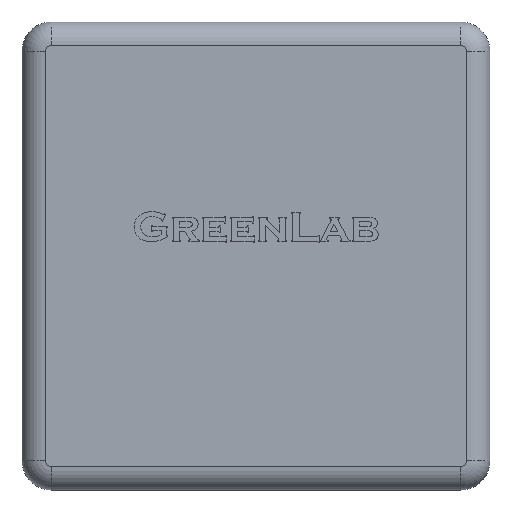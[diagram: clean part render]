
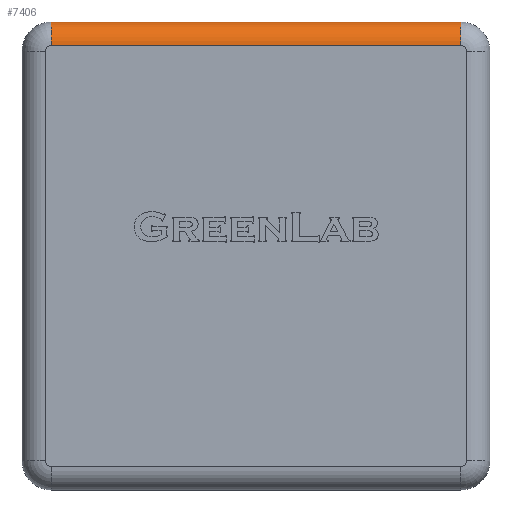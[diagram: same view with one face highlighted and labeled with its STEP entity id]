
A CAD part, top view. The second image highlights one B-rep face of the part: STEP entity #7406.
In plain terms, the highlighted cylindrical face has radius 2 mm (diameter 4 mm), a partial arc.
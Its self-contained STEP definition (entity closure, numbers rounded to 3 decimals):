
#727 = DIRECTION ( 'NONE',  ( -1., 0., 0. ) ) ;
#989 = EDGE_LOOP ( 'NONE', ( #8157, #3811, #7970, #6389 ) ) ;
#1475 = CARTESIAN_POINT ( 'NONE',  ( 15., 15.5, 3. ) ) ;
#1615 = CARTESIAN_POINT ( 'NONE',  ( 0., 15.5, 3. ) ) ;
#1779 = CARTESIAN_POINT ( 'NONE',  ( 17.5, 17.5, 1. ) ) ;
#1863 = DIRECTION ( 'NONE',  ( 0., -1., 0. ) ) ;
#2230 = VERTEX_POINT ( 'NONE', #1475 ) ;
#2774 = CYLINDRICAL_SURFACE ( 'NONE', #5541, 2. ) ;
#3087 = EDGE_CURVE ( 'NONE', #5090, #4146, #3863, .T. ) ;
#3186 = LINE ( 'NONE', #1615, #5279 ) ;
#3333 = CARTESIAN_POINT ( 'NONE',  ( 0., 15.5, 1. ) ) ;
#3713 = AXIS2_PLACEMENT_3D ( 'NONE', #4042, #9550, #6531 ) ;
#3811 = ORIENTED_EDGE ( 'NONE', *, *, #9667, .F. ) ;
#3863 = CIRCLE ( 'NONE', #3713, 2. ) ;
#4042 = CARTESIAN_POINT ( 'NONE',  ( -20., 15.5, 1. ) ) ;
#4078 = DIRECTION ( 'NONE',  ( -1., 0., 0. ) ) ;
#4146 = VERTEX_POINT ( 'NONE', #4842 ) ;
#4842 = CARTESIAN_POINT ( 'NONE',  ( -20., 17.5, 1. ) ) ;
#4920 = CARTESIAN_POINT ( 'NONE',  ( 15., 15.5, 1. ) ) ;
#5090 = VERTEX_POINT ( 'NONE', #5924 ) ;
#5279 = VECTOR ( 'NONE', #4078, 1000. ) ;
#5541 = AXIS2_PLACEMENT_3D ( 'NONE', #3333, #6444, #1863 ) ;
#5668 = VERTEX_POINT ( 'NONE', #9171 ) ;
#5924 = CARTESIAN_POINT ( 'NONE',  ( -20., 15.5, 3. ) ) ;
#6389 = ORIENTED_EDGE ( 'NONE', *, *, #9668, .F. ) ;
#6444 = DIRECTION ( 'NONE',  ( -1., 0., 0. ) ) ;
#6509 = LINE ( 'NONE', #1779, #8577 ) ;
#6531 = DIRECTION ( 'NONE',  ( 0., 0., 1. ) ) ;
#7142 = DIRECTION ( 'NONE',  ( 1., 0., 0. ) ) ;
#7406 = ADVANCED_FACE ( 'NONE', ( #7510 ), #2774, .T. ) ;
#7510 = FACE_OUTER_BOUND ( 'NONE', #989, .T. ) ;
#7915 = AXIS2_PLACEMENT_3D ( 'NONE', #4920, #727, #9633 ) ;
#7970 = ORIENTED_EDGE ( 'NONE', *, *, #3087, .F. ) ;
#8157 = ORIENTED_EDGE ( 'NONE', *, *, #8705, .T. ) ;
#8423 = CIRCLE ( 'NONE', #7915, 2. ) ;
#8577 = VECTOR ( 'NONE', #7142, 1000. ) ;
#8705 = EDGE_CURVE ( 'NONE', #2230, #5668, #8423, .T. ) ;
#9171 = CARTESIAN_POINT ( 'NONE',  ( 15., 17.5, 1. ) ) ;
#9550 = DIRECTION ( 'NONE',  ( -1., 0., 0. ) ) ;
#9633 = DIRECTION ( 'NONE',  ( 0., 0., 1. ) ) ;
#9667 = EDGE_CURVE ( 'NONE', #4146, #5668, #6509, .T. ) ;
#9668 = EDGE_CURVE ( 'NONE', #2230, #5090, #3186, .T. ) ;
